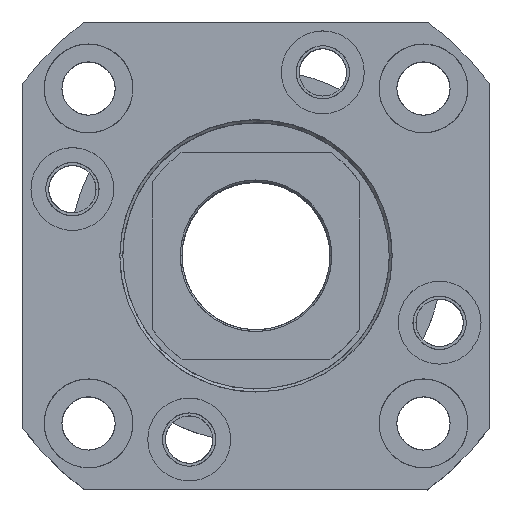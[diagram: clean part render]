
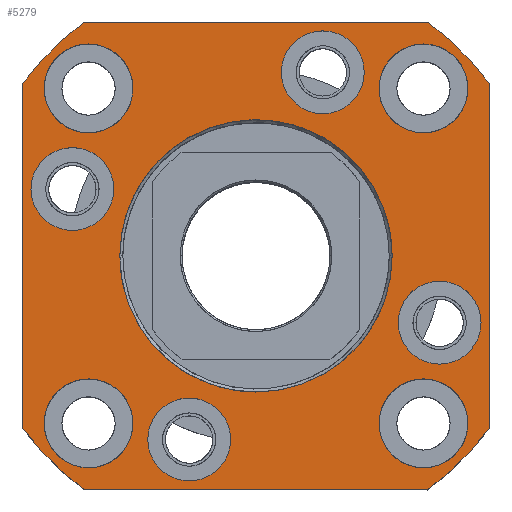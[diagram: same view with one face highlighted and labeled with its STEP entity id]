
A CAD part, top view. The second image highlights one B-rep face of the part: STEP entity #5279.
In plain terms, the highlighted planar face has unit normal (0, 0, 1).
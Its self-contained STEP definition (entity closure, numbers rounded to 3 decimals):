
#651=LINE($,#10527,#1105);
#652=LINE($,#10531,#1106);
#653=LINE($,#10535,#1107);
#654=LINE($,#10539,#1108);
#1105=VECTOR($,#6955,57.991);
#1106=VECTOR($,#6958,57.991);
#1107=VECTOR($,#6961,57.991);
#1108=VECTOR($,#6964,57.991);
#1701=FACE_BOUND($,#2010,.T.);
#1702=FACE_BOUND($,#2011,.T.);
#1703=FACE_BOUND($,#2012,.T.);
#1704=FACE_BOUND($,#2013,.T.);
#1705=FACE_BOUND($,#2014,.T.);
#1706=FACE_BOUND($,#2015,.T.);
#1707=FACE_BOUND($,#2016,.T.);
#1708=FACE_BOUND($,#2017,.T.);
#1709=FACE_BOUND($,#2018,.T.);
#1803=FACE_OUTER_BOUND($,#2009,.T.);
#2009=EDGE_LOOP($,(#4582,#4583,#4584,#4585,#4586,#4587,#4588,#4589));
#2010=EDGE_LOOP($,(#4590));
#2011=EDGE_LOOP($,(#4591));
#2012=EDGE_LOOP($,(#4592));
#2013=EDGE_LOOP($,(#4593));
#2014=EDGE_LOOP($,(#4594));
#2015=EDGE_LOOP($,(#4595));
#2016=EDGE_LOOP($,(#4596));
#2017=EDGE_LOOP($,(#4597));
#2018=EDGE_LOOP($,(#4598));
#2287=CIRCLE($,#5941,49.);
#2288=CIRCLE($,#5942,49.);
#2289=CIRCLE($,#5943,49.);
#2290=CIRCLE($,#5944,49.);
#2291=CIRCLE($,#5945,7.5);
#2292=CIRCLE($,#5946,7.5);
#2293=CIRCLE($,#5947,7.5);
#2294=CIRCLE($,#5948,7.5);
#2295=CIRCLE($,#5949,23.);
#2296=CIRCLE($,#5950,7.);
#2297=CIRCLE($,#5951,7.);
#2298=CIRCLE($,#5952,7.);
#2299=CIRCLE($,#5953,7.);
#3044=VERTEX_POINT($,#10525);
#3045=VERTEX_POINT($,#10526);
#3046=VERTEX_POINT($,#10528);
#3047=VERTEX_POINT($,#10530);
#3048=VERTEX_POINT($,#10532);
#3049=VERTEX_POINT($,#10534);
#3050=VERTEX_POINT($,#10536);
#3051=VERTEX_POINT($,#10538);
#3052=VERTEX_POINT($,#10541);
#3053=VERTEX_POINT($,#10543);
#3054=VERTEX_POINT($,#10545);
#3055=VERTEX_POINT($,#10547);
#3056=VERTEX_POINT($,#10549);
#3057=VERTEX_POINT($,#10551);
#3058=VERTEX_POINT($,#10553);
#3059=VERTEX_POINT($,#10555);
#3060=VERTEX_POINT($,#10557);
#3813=EDGE_CURVE($,#3044,#3045,#651,.T.);
#3814=EDGE_CURVE($,#3045,#3046,#2287,.T.);
#3815=EDGE_CURVE($,#3046,#3047,#652,.T.);
#3816=EDGE_CURVE($,#3047,#3048,#2288,.T.);
#3817=EDGE_CURVE($,#3048,#3049,#653,.T.);
#3818=EDGE_CURVE($,#3049,#3050,#2289,.T.);
#3819=EDGE_CURVE($,#3050,#3051,#654,.T.);
#3820=EDGE_CURVE($,#3051,#3044,#2290,.T.);
#3821=EDGE_CURVE($,#3052,#3052,#2291,.T.);
#3822=EDGE_CURVE($,#3053,#3053,#2292,.T.);
#3823=EDGE_CURVE($,#3054,#3054,#2293,.T.);
#3824=EDGE_CURVE($,#3055,#3055,#2294,.T.);
#3825=EDGE_CURVE($,#3056,#3056,#2295,.T.);
#3826=EDGE_CURVE($,#3057,#3057,#2296,.T.);
#3827=EDGE_CURVE($,#3058,#3058,#2297,.T.);
#3828=EDGE_CURVE($,#3059,#3059,#2298,.T.);
#3829=EDGE_CURVE($,#3060,#3060,#2299,.T.);
#4582=ORIENTED_EDGE($,*,*,#3813,.T.);
#4583=ORIENTED_EDGE($,*,*,#3814,.T.);
#4584=ORIENTED_EDGE($,*,*,#3815,.T.);
#4585=ORIENTED_EDGE($,*,*,#3816,.T.);
#4586=ORIENTED_EDGE($,*,*,#3817,.T.);
#4587=ORIENTED_EDGE($,*,*,#3818,.T.);
#4588=ORIENTED_EDGE($,*,*,#3819,.T.);
#4589=ORIENTED_EDGE($,*,*,#3820,.T.);
#4590=ORIENTED_EDGE($,*,*,#3821,.T.);
#4591=ORIENTED_EDGE($,*,*,#3822,.T.);
#4592=ORIENTED_EDGE($,*,*,#3823,.T.);
#4593=ORIENTED_EDGE($,*,*,#3824,.T.);
#4594=ORIENTED_EDGE($,*,*,#3825,.T.);
#4595=ORIENTED_EDGE($,*,*,#3826,.T.);
#4596=ORIENTED_EDGE($,*,*,#3827,.T.);
#4597=ORIENTED_EDGE($,*,*,#3828,.T.);
#4598=ORIENTED_EDGE($,*,*,#3829,.T.);
#5005=PLANE($,#5940);
#5279=ADVANCED_FACE($,(#1803,#1701,#1702,#1703,#1704,#1705,#1706,#1707,
#1708,#1709),#5005,.T.);
#5940=AXIS2_PLACEMENT_3D($,#10524,#6953,#6954);
#5941=AXIS2_PLACEMENT_3D($,#10529,#6956,#6957);
#5942=AXIS2_PLACEMENT_3D($,#10533,#6959,#6960);
#5943=AXIS2_PLACEMENT_3D($,#10537,#6962,#6963);
#5944=AXIS2_PLACEMENT_3D($,#10540,#6965,#6966);
#5945=AXIS2_PLACEMENT_3D($,#10542,#6967,#6968);
#5946=AXIS2_PLACEMENT_3D($,#10544,#6969,#6970);
#5947=AXIS2_PLACEMENT_3D($,#10546,#6971,#6972);
#5948=AXIS2_PLACEMENT_3D($,#10548,#6973,#6974);
#5949=AXIS2_PLACEMENT_3D($,#10550,#6975,#6976);
#5950=AXIS2_PLACEMENT_3D($,#10552,#6977,#6978);
#5951=AXIS2_PLACEMENT_3D($,#10554,#6979,#6980);
#5952=AXIS2_PLACEMENT_3D($,#10556,#6981,#6982);
#5953=AXIS2_PLACEMENT_3D($,#10558,#6983,#6984);
#6953=DIRECTION('center_axis',(0.,0.,1.));
#6954=DIRECTION('ref_axis',(1.,0.,0.));
#6955=DIRECTION($,(1.,0.,0.));
#6956=DIRECTION('center_axis',(0.,0.,
1.));
#6957=DIRECTION('ref_axis',(0.592,-0.806,0.));
#6958=DIRECTION($,(0.,1.,0.));
#6959=DIRECTION('center_axis',(0.,0.,1.));
#6960=DIRECTION('ref_axis',(0.806,0.592,0.));
#6961=DIRECTION($,(-1.,0.,0.));
#6962=DIRECTION('center_axis',(0.,0.,1.));
#6963=DIRECTION('ref_axis',(-0.592,0.806,0.));
#6964=DIRECTION($,(0.,-1.,0.));
#6965=DIRECTION('center_axis',(0.,0.,
1.));
#6966=DIRECTION('ref_axis',(-0.806,-0.592,0.));
#6967=DIRECTION('center_axis',(0.,0.,
-1.));
#6968=DIRECTION('ref_axis',(1.,0.,0.));
#6969=DIRECTION('center_axis',(0.,0.,
-1.));
#6970=DIRECTION('ref_axis',(0.,1.,0.));
#6971=DIRECTION('center_axis',(0.,0.,
-1.));
#6972=DIRECTION('ref_axis',(0.,1.,0.));
#6973=DIRECTION('center_axis',(0.,0.,
-1.));
#6974=DIRECTION('ref_axis',(1.,0.,0.));
#6975=DIRECTION('center_axis',(0.,0.,
-1.));
#6976=DIRECTION('ref_axis',(1.,0.,0.));
#6977=DIRECTION('center_axis',(0.,0.,-1.));
#6978=DIRECTION('ref_axis',(-1.,0.,0.));
#6979=DIRECTION('center_axis',(0.,0.,-1.));
#6980=DIRECTION('ref_axis',(-1.,0.,0.));
#6981=DIRECTION('center_axis',(0.,0.,-1.));
#6982=DIRECTION('ref_axis',(-1.,0.,0.));
#6983=DIRECTION('center_axis',(0.,0.,-1.));
#6984=DIRECTION('ref_axis',(-1.,0.,0.));
#10524=CARTESIAN_POINT('Origin',(0.,43.45,13.));
#10525=CARTESIAN_POINT('',(-28.996,-39.5,13.));
#10526=CARTESIAN_POINT('',(28.996,-39.5,13.));
#10527=CARTESIAN_POINT($,(-28.996,-39.5,13.));
#10528=CARTESIAN_POINT('',(39.5,-28.996,13.));
#10529=CARTESIAN_POINT('Origin',(0.,0.,
13.));
#10530=CARTESIAN_POINT('',(39.5,28.996,13.));
#10531=CARTESIAN_POINT($,(39.5,-28.996,13.));
#10532=CARTESIAN_POINT('',(28.996,39.5,13.));
#10533=CARTESIAN_POINT('Origin',(0.,0.,
13.));
#10534=CARTESIAN_POINT('',(-28.996,39.5,13.));
#10535=CARTESIAN_POINT($,(28.996,39.5,13.));
#10536=CARTESIAN_POINT('',(-39.5,28.996,13.));
#10537=CARTESIAN_POINT('Origin',(0.,0.,
13.));
#10538=CARTESIAN_POINT('',(-39.5,-28.996,13.));
#10539=CARTESIAN_POINT($,(-39.5,28.996,13.));
#10540=CARTESIAN_POINT('Origin',(0.,0.,
13.));
#10541=CARTESIAN_POINT('',(20.784,28.284,13.));
#10542=CARTESIAN_POINT('Origin',(28.284,28.284,13.));
#10543=CARTESIAN_POINT('',(-28.284,20.784,13.));
#10544=CARTESIAN_POINT('Origin',(-28.284,28.284,13.));
#10545=CARTESIAN_POINT('',(28.284,-35.784,13.));
#10546=CARTESIAN_POINT('Origin',(28.284,-28.284,13.));
#10547=CARTESIAN_POINT('',(-35.784,-28.284,13.));
#10548=CARTESIAN_POINT('Origin',(-28.284,-28.284,13.));
#10549=CARTESIAN_POINT('',(-23.,0.,13.));
#10550=CARTESIAN_POINT('Origin',(0.,0.,
13.));
#10551=CARTESIAN_POINT('',(18.287,31.01,13.));
#10552=CARTESIAN_POINT('Origin',(11.287,31.01,13.));
#10553=CARTESIAN_POINT('',(-24.01,11.287,13.));
#10554=CARTESIAN_POINT('Origin',(-31.01,11.287,13.));
#10555=CARTESIAN_POINT('',(-4.287,-31.01,13.));
#10556=CARTESIAN_POINT('Origin',(-11.287,-31.01,13.));
#10557=CARTESIAN_POINT('',(38.01,-11.287,13.));
#10558=CARTESIAN_POINT('Origin',(31.01,-11.287,13.));
